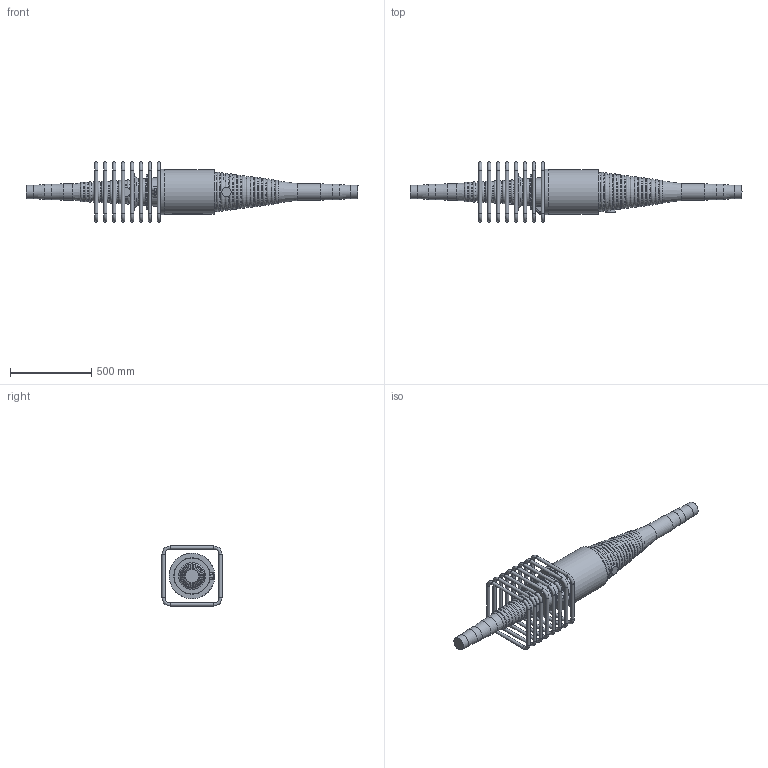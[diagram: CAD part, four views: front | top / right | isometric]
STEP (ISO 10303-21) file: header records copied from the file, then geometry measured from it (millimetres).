
FILE_DESCRIPTION(/* description */ (''),/* implementation_level */ '2;1');
FILE_NAME(/* name */ 'BBR VT CONA CMI BT 1906_Coupler H Assembly_CS-43,35_Stirrup.stp',/* time_stamp */ '2024-10-29T13:43:44+01:00',/* author */ ('tk'),/* organization */ (''),/* preprocessor_version */ 'ST-DEVELOPER v20',/* originating_system */ 'Autodesk Inventor 2024',/* authorisation */ '');
FILE_SCHEMA (('AUTOMOTIVE_DESIGN { 1 0 10303 214 3 1 1 }'));
Products named in the file (1): BBR VT CONA CMI BT 1906_Coupler H Assembly_CS-43,35_Stirrup
Bounding box: 2045.13 x 370 x 370 mm (x, y, z)
Volume: 49842512.7 mm3; surface area: 1851376 mm2
Topology: 9 solids, 9 shells, 983 faces, 2697 edges, 1792 vertices
Faces by surface type: bspline 400, plane 352, cylinder 123, torus 73, cone 35
Full cylindrical faces by diameter (mm): 20 x32, 57 x2, 84 x2, 94 x2, 104 x2, 164 x1, 218 x1, 223.017 x1, 273 x1, 280 x1
Entity records: 42637 total; most frequent: CARTESIAN_POINT 19398, ORIENTED_EDGE 5390, DIRECTION 3777, EDGE_CURVE 2695, VERTEX_POINT 1792, AXIS2_PLACEMENT_3D 1327, LINE 1123, VECTOR 1123
